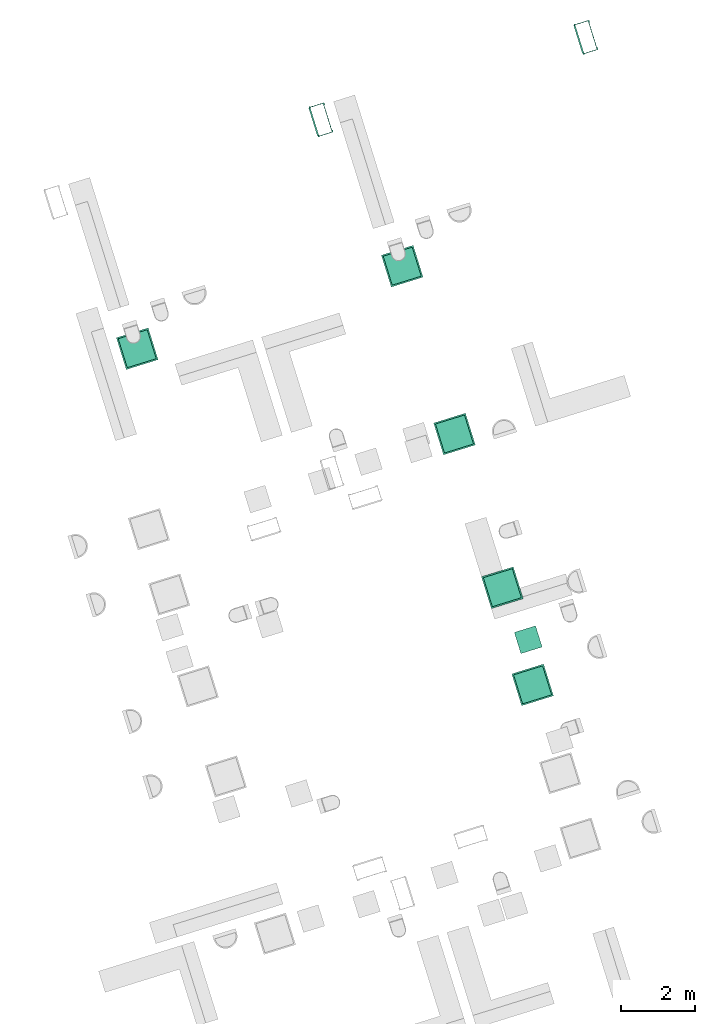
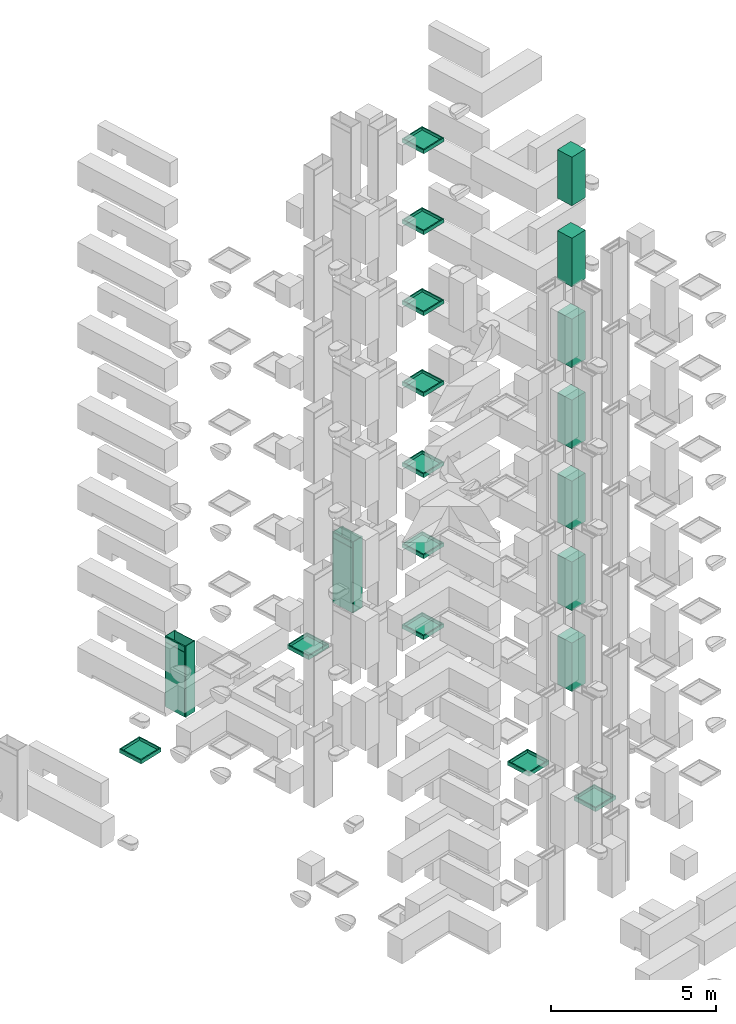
# Not in any storey, part 5 of 20: 11 sanitary terminals, 7 boilers, 2 distribution chamber elements.
"""IFC4 model written with IfcOpenShell, lengths in metres."""

from ifc_helpers import new_model, entity, si_unit, converted_unit, direction, frame, origin, place, context, subcontext, project, indexed_curve, outline, extrude, polygons, source, transform, mapped, material, type_object, type_shapes, element, save


model = new_model("IFC4")

# Units and contexts
model_context = context("Model", 3, precision=1e-05, world=origin(), true_north=direction((6.12323399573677e-17, 1.0)))
body_context = subcontext(model_context, "Body", "Model", "MODEL_VIEW")
ifc_project = project(units=[si_unit("LENGTHUNIT", "METRE"), si_unit("AREAUNIT", "SQUARE_METRE"), si_unit("VOLUMEUNIT", "CUBIC_METRE"), converted_unit("PLANEANGLEUNIT", "DEGREE", entity("IfcPlaneAngleMeasure", 0.0174532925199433), si_unit("PLANEANGLEUNIT", "RADIAN"), dimensions=[0, 0, 0, 0, 0, 0, 0])], contexts=[model_context])

# Distribution chamber elements
ifc_material = material(Name="<Unnamed>")
distribution_chamber_element_type = type_object("IfcDistributionChamberElementType", Name="NLRS_61_GM_UN_Jonka meterkast_gen:Jonka_kast", PredefinedType="METERCHAMBER", material=ifc_material)
shared_shape_1 = source(origin(), body_context, "Body", "SweptSolid", [
    extrude(outline(indexed_curve([(-0.00925000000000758, -0.0230000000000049), (0.0177500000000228, -0.0230000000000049), (0.0177500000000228, 0.0230000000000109), (-0.00925000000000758, 0.0230000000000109), (-0.00925000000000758, 0.00899999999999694), (0.000749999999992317, 0.00899999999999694), (0.000749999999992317, -0.00900000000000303), (-0.00925000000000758, -0.00900000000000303), (-0.00925000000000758, -0.0230000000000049)], self_intersect=False)), frame((-0.408999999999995, -0.409249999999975, 0.0), z_axis=(0.0, 0.0, 1.0), x_axis=(0.0, -1.0, 0.0)), (0.0, 0.0, 1.0), 2.63),
    extrude(outline(indexed_curve([(-0.0092500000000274, -0.0230000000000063), (0.0177500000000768, -0.0230000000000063), (0.0177500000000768, 0.0229999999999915), (-0.00925000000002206, 0.0229999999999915), (-0.00925000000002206, 0.00900000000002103), (0.000749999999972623, 0.00900000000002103), (0.000749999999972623, -0.00900000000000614), (-0.0092500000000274, -0.00900000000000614), (-0.0092500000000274, -0.0230000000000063)], self_intersect=False)), frame((0.409000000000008, -0.409249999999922, 0.0), z_axis=(0.0, 0.0, 1.0), x_axis=(0.0, -1.0, 0.0)), (0.0, 0.0, 1.0), 2.63),
    extrude(outline(indexed_curve([(-0.204999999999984, -0.00899999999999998), (0.204999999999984, -0.00899999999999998), (0.204999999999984, 0.00899999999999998), (-0.204999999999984, 0.00899999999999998), (-0.204999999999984, -0.00899999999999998)], self_intersect=False)), frame((-0.408999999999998, -0.204999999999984, 0.0), z_axis=(0.0, 0.0, 1.0), x_axis=(0.0, -1.0, 0.0)), (0.0, 0.0, 1.0), 2.63),
    extrude(outline(indexed_curve([(-0.204999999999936, -0.00900000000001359), (0.204999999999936, -0.00900000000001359), (0.204999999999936, 0.00900000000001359), (-0.204999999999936, 0.00900000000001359), (-0.204999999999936, -0.00900000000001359)], self_intersect=False)), frame((0.409000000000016, -0.204999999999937, 0.0), z_axis=(0.0, 0.0, 1.0), x_axis=(0.0, -1.0, 0.0)), (0.0, 0.0, 1.0), 2.63),
    extrude(outline(indexed_curve([(-0.399999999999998, -0.00799999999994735), (0.399999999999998, -0.00799999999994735), (0.399999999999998, 0.00799999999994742), (-0.399999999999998, 0.00799999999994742), (-0.399999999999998, -0.00799999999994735)], self_intersect=False)), frame((0.0, -0.434999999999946, 0.00999999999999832), z_axis=(0.0, 0.0, 1.0), x_axis=(-1.0, 0.0, 0.0)), (0.0, 0.0, 1.0), 2.39),
    extrude(outline(indexed_curve([(-0.400000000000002, -0.00899999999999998), (0.400000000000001, -0.00899999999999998), (0.400000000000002, 0.00899999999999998), (-0.400000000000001, 0.00899999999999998), (-0.400000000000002, -0.00899999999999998)], self_intersect=False)), frame((0.0, -0.0280000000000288, 0.0), z_axis=(0.0, 0.0, 1.0), x_axis=(-1.0, 0.0, 0.0)), (0.0, 0.0, 1.0), 2.63),
    extrude(outline(indexed_curve([(-0.023, -0.0095), (0.023, -0.0095), (0.023, 0.0095), (-0.023, 0.0095), (-0.023, -0.0095)], self_intersect=False)), frame((-0.376999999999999, -0.0095, 0.0), z_axis=(0.0, 0.0, 1.0), x_axis=(-1.0, 0.0, 0.0)), (0.0, 0.0, 1.0), 2.63),
    extrude(outline(indexed_curve([(-0.022999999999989, -0.0095), (0.022999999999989, -0.0095), (0.022999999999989, 0.0095), (-0.022999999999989, 0.0095), (-0.022999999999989, -0.0095)], self_intersect=False)), frame((0.377000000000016, -0.00950000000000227, 0.0), z_axis=(0.0, 0.0, 1.0), x_axis=(-1.0, 0.0, 0.0)), (0.0, 0.0, 1.0), 2.63),
    extrude(outline(indexed_curve([(-0.399999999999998, -0.00799999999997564), (0.399999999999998, -0.00799999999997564), (0.399999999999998, 0.00799999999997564), (-0.399999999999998, 0.00799999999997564), (-0.399999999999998, -0.00799999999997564)], self_intersect=False)), frame((0.0, -0.434999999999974, 2.41800000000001), z_axis=(0.0, 0.0, 1.0), x_axis=(-1.0, 0.0, 0.0)), (0.0, 0.0, 1.0), 0.197000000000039),
    extrude(outline(indexed_curve([(-0.0230000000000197, -0.0177500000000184), (0.0230000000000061, -0.0177500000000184), (0.0230000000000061, 0.00925000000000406), (0.00900000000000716, 0.00925000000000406), (0.00900000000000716, -0.00074999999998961), (-0.00899999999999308, -0.00074999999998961), (-0.00899999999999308, 0.00925000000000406), (-0.0230000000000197, 0.00925000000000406), (-0.0230000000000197, -0.0177500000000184)], self_intersect=False)), frame((-0.386, -0.409249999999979, 2.59200000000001), z_axis=(1.0, 0.0, 0.0), x_axis=(0.0, 0.0, -1.0)), (0.0, 0.0, 1.0), 0.772),
    extrude(outline(indexed_curve([(-0.0229999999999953, -0.0177500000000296), (0.0229999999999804, -0.0177500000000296), (0.0229999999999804, 0.00925000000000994), (0.00900000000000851, 0.00925000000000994), (0.00900000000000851, -0.000749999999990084), (-0.00899999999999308, -0.000749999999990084), (-0.00899999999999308, 0.00925000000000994), (-0.0229999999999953, 0.00925000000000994), (-0.0229999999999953, -0.0177500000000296)], self_intersect=False)), frame((-0.386, -0.40924999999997, 2.40900000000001), z_axis=(1.0, 0.0, 0.0), x_axis=(0.0, 0.0, -1.0)), (0.0, 0.0, 1.0), 0.772),
    extrude(outline(indexed_curve([(-0.0230000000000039, -0.0177500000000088), (0.0230000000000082, -0.0177500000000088), (0.0230000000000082, 0.00925000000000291), (0.00899999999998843, 0.00925000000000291), (0.00899999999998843, -0.000749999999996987), (-0.00899999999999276, -0.000749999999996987), (-0.00899999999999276, 0.00925000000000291), (-0.0230000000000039, 0.00925000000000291), (-0.0230000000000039, -0.0177500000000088)], self_intersect=False)), frame((-0.386, -0.409249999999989, 0.0229999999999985), z_axis=(1.0, 0.0, 0.0), x_axis=(0.0, 0.0, -1.0)), (0.0, 0.0, 1.0), 0.772),
])
type_shapes(distribution_chamber_element_type, [shared_shape_1])
placement_1 = place(None, frame((13.1347999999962, 11.9886000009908, 0.0), z_axis=(0.0, 0.0, 1.0), x_axis=(0.954770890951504, 0.297342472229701, 0.0)))
placement_2 = place(placement_1, origin())
placement_3 = place(placement_2, origin())
placement_4 = place(placement_3, origin())
distribution_chamber_element_1_placement = place(placement_4, frame((19.8750000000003, 31.957, 0.0), z_axis=(0.0, 0.0, 1.0), x_axis=(0.0, -1.0, 0.0)))
element("IfcDistributionChamberElement", 1, at=distribution_chamber_element_1_placement, type_object=distribution_chamber_element_type, material=ifc_material, Name="NLRS_61_GM_UN_Jonka meterkast_gen:Jonka_kast", ObjectType="NLRS_61_GM_UN_Jonka meterkast_gen:Jonka_kast", PredefinedType="METERCHAMBER", context=body_context, shape_type="MappedRepresentation", body=[
    mapped(shared_shape_1, transform((0.0, 0.0, 0.0), scale=1.0)),
])
placement_5 = place(placement_3, origin())
distribution_chamber_element_2_placement = place(placement_5, frame((27.3750000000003, 31.957, 0.0), z_axis=(0.0, 0.0, 1.0), x_axis=(0.0, -1.0, 0.0)))
element("IfcDistributionChamberElement", 2, at=distribution_chamber_element_2_placement, type_object=distribution_chamber_element_type, material=ifc_material, Name="NLRS_61_GM_UN_Jonka meterkast_gen:Jonka_kast", ObjectType="NLRS_61_GM_UN_Jonka meterkast_gen:Jonka_kast", PredefinedType="METERCHAMBER", context=body_context, shape_type="MappedRepresentation", body=[
    mapped(shared_shape_1, transform((0.0, 0.0, 0.0), scale=1.0)),
])

# Boilers
boiler_type = type_object("IfcBoilerType", Name="NLRS_51_ME_WB_warmtepomp_gen:generiek", PredefinedType="NOTDEFINED", material=ifc_material)
shared_shape_2 = source(origin(), body_context, "Body", "SweptSolid", [
    extrude(outline(indexed_curve([(-0.299999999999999, -0.300000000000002), (0.299999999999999, -0.300000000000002), (0.299999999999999, 0.300000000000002), (-0.299999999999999, 0.300000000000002), (-0.299999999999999, -0.300000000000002)], self_intersect=False)), frame((0.124999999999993, 0.350000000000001, 0.6), z_axis=(0.0, 0.0, 1.0), x_axis=(-1.0, 0.0, 0.0)), (0.0, 0.0, 1.0), 1.8),
])
type_shapes(boiler_type, [shared_shape_2])
placement_6 = place(placement_2, frame((0.0, 0.0, 6.9)))
placement_7 = place(placement_6, origin())
boiler_1_placement = place(placement_7, frame((20.9500000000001, 17.225, 0.0), z_axis=(0.0, 0.0, 1.0), x_axis=(-1.0, 0.0, 0.0)))
element("IfcBoiler", 3, at=boiler_1_placement, type_object=boiler_type, material=ifc_material, Name="NLRS_51_ME_WB_warmtepomp_gen:generiek", ObjectType="NLRS_51_ME_WB_warmtepomp_gen:generiek", PredefinedType="NOTDEFINED", context=body_context, shape_type="MappedRepresentation", body=[
    mapped(shared_shape_2, transform((0.0, 0.0, 0.0), scale=1.0)),
])
placement_8 = place(placement_2, frame((0.0, 0.0, 9.9)))
placement_9 = place(placement_8, origin())
boiler_2_placement = place(placement_9, frame((20.9500000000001, 17.225, 0.0), z_axis=(0.0, 0.0, 1.0), x_axis=(-1.0, 0.0, 0.0)))
element("IfcBoiler", 4, at=boiler_2_placement, type_object=boiler_type, material=ifc_material, Name="NLRS_51_ME_WB_warmtepomp_gen:generiek", ObjectType="NLRS_51_ME_WB_warmtepomp_gen:generiek", PredefinedType="NOTDEFINED", context=body_context, shape_type="MappedRepresentation", body=[
    mapped(shared_shape_2, transform((0.0, 0.0, 0.0), scale=1.0)),
])
placement_10 = place(placement_2, frame((0.0, 0.0, 12.9)))
placement_11 = place(placement_10, origin())
boiler_3_placement = place(placement_11, frame((20.9500000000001, 17.225, 0.0), z_axis=(0.0, 0.0, 1.0), x_axis=(-1.0, 0.0, 0.0)))
element("IfcBoiler", 5, at=boiler_3_placement, type_object=boiler_type, material=ifc_material, Name="NLRS_51_ME_WB_warmtepomp_gen:generiek", ObjectType="NLRS_51_ME_WB_warmtepomp_gen:generiek", PredefinedType="NOTDEFINED", context=body_context, shape_type="MappedRepresentation", body=[
    mapped(shared_shape_2, transform((0.0, 0.0, 0.0), scale=1.0)),
])
placement_12 = place(placement_2, frame((0.0, 0.0, 15.9)))
placement_13 = place(placement_12, origin())
boiler_4_placement = place(placement_13, frame((20.9500000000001, 17.225, 0.0), z_axis=(0.0, 0.0, 1.0), x_axis=(-1.0, 0.0, 0.0)))
element("IfcBoiler", 6, at=boiler_4_placement, type_object=boiler_type, material=ifc_material, Name="NLRS_51_ME_WB_warmtepomp_gen:generiek", ObjectType="NLRS_51_ME_WB_warmtepomp_gen:generiek", PredefinedType="NOTDEFINED", context=body_context, shape_type="MappedRepresentation", body=[
    mapped(shared_shape_2, transform((0.0, 0.0, 0.0), scale=1.0)),
])
placement_14 = place(placement_2, frame((0.0, 0.0, 18.9)))
placement_15 = place(placement_14, origin())
boiler_5_placement = place(placement_15, frame((20.9500000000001, 17.225, 0.0), z_axis=(0.0, 0.0, 1.0), x_axis=(-1.0, 0.0, 0.0)))
element("IfcBoiler", 7, at=boiler_5_placement, type_object=boiler_type, material=ifc_material, Name="NLRS_51_ME_WB_warmtepomp_gen:generiek", ObjectType="NLRS_51_ME_WB_warmtepomp_gen:generiek", PredefinedType="NOTDEFINED", context=body_context, shape_type="MappedRepresentation", body=[
    mapped(shared_shape_2, transform((0.0, 0.0, 0.0), scale=1.0)),
])
placement_16 = place(placement_2, frame((0.0, 0.0, 21.9)))
placement_17 = place(placement_16, origin())
boiler_6_placement = place(placement_17, frame((20.9500000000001, 17.225, 0.0), z_axis=(0.0, 0.0, 1.0), x_axis=(-1.0, 0.0, 0.0)))
element("IfcBoiler", 8, at=boiler_6_placement, type_object=boiler_type, material=ifc_material, Name="NLRS_51_ME_WB_warmtepomp_gen:generiek", ObjectType="NLRS_51_ME_WB_warmtepomp_gen:generiek", PredefinedType="NOTDEFINED", context=body_context, shape_type="MappedRepresentation", body=[
    mapped(shared_shape_2, transform((0.0, 0.0, 0.0), scale=1.0)),
])
placement_18 = place(placement_2, frame((0.0, 0.0, 24.9)))
placement_19 = place(placement_18, origin())
boiler_7_placement = place(placement_19, frame((20.9500000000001, 17.225, 0.0), z_axis=(0.0, 0.0, 1.0), x_axis=(-1.0, 0.0, 0.0)))
element("IfcBoiler", 9, at=boiler_7_placement, type_object=boiler_type, material=ifc_material, Name="NLRS_51_ME_WB_warmtepomp_gen:generiek", ObjectType="NLRS_51_ME_WB_warmtepomp_gen:generiek", PredefinedType="NOTDEFINED", context=body_context, shape_type="MappedRepresentation", body=[
    mapped(shared_shape_2, transform((0.0, 0.0, 0.0), scale=1.0)),
])

# Sanitary terminals
sanitary_terminal_type = type_object("IfcSanitaryTerminalType", Name="NLRS_74_PF_UN_douche_gen:douchebak 900x900mm", PredefinedType="NOTDEFINED", material=ifc_material)
shared_shape_3 = source(origin(), body_context, "Body", "Tessellation", [
    polygons([(1.65924045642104, 0.403499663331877, -9.76), (0.759240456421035, 0.403499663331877, -9.76), (0.759240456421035, -0.496500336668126, -9.76), (1.65924045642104, -0.496500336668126, -9.76), (0.799240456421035, 0.36349966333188, -9.76), (1.61924045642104, 0.36349966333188, -9.76), (1.61924045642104, -0.456500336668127, -9.76), (0.799240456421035, -0.456500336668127, -9.76), (1.65924045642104, 0.403499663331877, -9.9), (1.65924045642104, -0.496500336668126, -9.9), (0.759240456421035, -0.496500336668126, -9.9), (0.759240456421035, 0.403499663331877, -9.9), (1.61924045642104, 0.36349966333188, -9.86), (0.799240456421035, 0.36349966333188, -9.86), (0.799240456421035, -0.456500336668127, -9.86), (1.61924045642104, -0.456500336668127, -9.86)], [[[1, 2, 3, 4], [5, 6, 7, 8]], [[9, 10, 11, 12]], [[2, 1, 9, 12]], [[3, 2, 12, 11]], [[4, 3, 11, 10]], [[1, 4, 10, 9]], [[13, 14, 15, 16]], [[14, 13, 6, 5]], [[15, 14, 5, 8]], [[16, 15, 8, 7]], [[13, 16, 7, 6]]], closed=True),
])
type_shapes(sanitary_terminal_type, [shared_shape_3])
placement_20 = place(placement_2, frame((0.0, 0.0, 3.9)))
placement_21 = place(placement_20, origin())
sanitary_terminal_1_placement = place(placement_21, frame((13.0284996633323, 26.3157595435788, 9.9), z_axis=(0.0, 0.0, 1.0), x_axis=(0.0, 1.0, 0.0)))
element("IfcSanitaryTerminal", 10, at=sanitary_terminal_1_placement, type_object=sanitary_terminal_type, material=ifc_material, Name="NLRS_74_PF_UN_douche_gen:douchebak 900x900mm", ObjectType="NLRS_74_PF_UN_douche_gen:douchebak 900x900mm", PredefinedType="NOTDEFINED", context=body_context, shape_type="MappedRepresentation", body=[
    mapped(shared_shape_3, transform((0.0, 0.0, 0.0), scale=1.0)),
])
placement_22 = place(placement_20, origin())
sanitary_terminal_2_placement = place(placement_22, frame((20.5284996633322, 26.315759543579, 9.9), z_axis=(0.0, 0.0, 1.0), x_axis=(0.0, 1.0, 0.0)))
element("IfcSanitaryTerminal", 11, at=sanitary_terminal_2_placement, type_object=sanitary_terminal_type, material=ifc_material, Name="NLRS_74_PF_UN_douche_gen:douchebak 900x900mm", ObjectType="NLRS_74_PF_UN_douche_gen:douchebak 900x900mm", PredefinedType="NOTDEFINED", context=body_context, shape_type="MappedRepresentation", body=[
    mapped(shared_shape_3, transform((0.0, 0.0, 0.0), scale=1.0)),
])
placement_23 = place(placement_6, origin())
sanitary_terminal_3_placement = place(placement_23, frame((20.6215003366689, 23.9842404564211, 9.9), z_axis=(0.0, 0.0, 1.0), x_axis=(0.0, -1.0, 0.0)))
element("IfcSanitaryTerminal", 12, at=sanitary_terminal_3_placement, type_object=sanitary_terminal_type, material=ifc_material, Name="NLRS_74_PF_UN_douche_gen:douchebak 900x900mm", ObjectType="NLRS_74_PF_UN_douche_gen:douchebak 900x900mm", PredefinedType="NOTDEFINED", context=body_context, shape_type="MappedRepresentation", body=[
    mapped(shared_shape_3, transform((0.0, 0.0, 0.0), scale=1.0)),
])
placement_24 = place(placement_8, origin())
sanitary_terminal_4_placement = place(placement_24, frame((20.6215003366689, 23.9842404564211, 9.9), z_axis=(0.0, 0.0, 1.0), x_axis=(0.0, -1.0, 0.0)))
element("IfcSanitaryTerminal", 13, at=sanitary_terminal_4_placement, type_object=sanitary_terminal_type, material=ifc_material, Name="NLRS_74_PF_UN_douche_gen:douchebak 900x900mm", ObjectType="NLRS_74_PF_UN_douche_gen:douchebak 900x900mm", PredefinedType="NOTDEFINED", context=body_context, shape_type="MappedRepresentation", body=[
    mapped(shared_shape_3, transform((0.0, 0.0, 0.0), scale=1.0)),
])
placement_25 = place(placement_10, origin())
sanitary_terminal_5_placement = place(placement_25, frame((20.6215003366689, 23.9842404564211, 9.90000000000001), z_axis=(0.0, 0.0, 1.0), x_axis=(0.0, -1.0, 0.0)))
element("IfcSanitaryTerminal", 14, at=sanitary_terminal_5_placement, type_object=sanitary_terminal_type, material=ifc_material, Name="NLRS_74_PF_UN_douche_gen:douchebak 900x900mm", ObjectType="NLRS_74_PF_UN_douche_gen:douchebak 900x900mm", PredefinedType="NOTDEFINED", context=body_context, shape_type="MappedRepresentation", body=[
    mapped(shared_shape_3, transform((0.0, 0.0, 0.0), scale=1.0)),
])
placement_26 = place(placement_12, origin())
sanitary_terminal_6_placement = place(placement_26, frame((20.6215003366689, 23.9842404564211, 9.9), z_axis=(0.0, 0.0, 1.0), x_axis=(0.0, -1.0, 0.0)))
element("IfcSanitaryTerminal", 15, at=sanitary_terminal_6_placement, type_object=sanitary_terminal_type, material=ifc_material, Name="NLRS_74_PF_UN_douche_gen:douchebak 900x900mm", ObjectType="NLRS_74_PF_UN_douche_gen:douchebak 900x900mm", PredefinedType="NOTDEFINED", context=body_context, shape_type="MappedRepresentation", body=[
    mapped(shared_shape_3, transform((0.0, 0.0, 0.0), scale=1.0)),
])
placement_27 = place(placement_14, origin())
sanitary_terminal_7_placement = place(placement_27, frame((20.6215003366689, 23.9842404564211, 9.9), z_axis=(0.0, 0.0, 1.0), x_axis=(0.0, -1.0, 0.0)))
element("IfcSanitaryTerminal", 16, at=sanitary_terminal_7_placement, type_object=sanitary_terminal_type, material=ifc_material, Name="NLRS_74_PF_UN_douche_gen:douchebak 900x900mm", ObjectType="NLRS_74_PF_UN_douche_gen:douchebak 900x900mm", PredefinedType="NOTDEFINED", context=body_context, shape_type="MappedRepresentation", body=[
    mapped(shared_shape_3, transform((0.0, 0.0, 0.0), scale=1.0)),
])
placement_28 = place(placement_16, origin())
sanitary_terminal_8_placement = place(placement_28, frame((20.6215003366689, 23.9842404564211, 9.9), z_axis=(0.0, 0.0, 1.0), x_axis=(0.0, -1.0, 0.0)))
element("IfcSanitaryTerminal", 17, at=sanitary_terminal_8_placement, type_object=sanitary_terminal_type, material=ifc_material, Name="NLRS_74_PF_UN_douche_gen:douchebak 900x900mm", ObjectType="NLRS_74_PF_UN_douche_gen:douchebak 900x900mm", PredefinedType="NOTDEFINED", context=body_context, shape_type="MappedRepresentation", body=[
    mapped(shared_shape_3, transform((0.0, 0.0, 0.0), scale=1.0)),
])
placement_29 = place(placement_18, origin())
sanitary_terminal_9_placement = place(placement_29, frame((20.6215003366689, 23.9842404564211, 9.9), z_axis=(0.0, 0.0, 1.0), x_axis=(0.0, -1.0, 0.0)))
element("IfcSanitaryTerminal", 18, at=sanitary_terminal_9_placement, type_object=sanitary_terminal_type, material=ifc_material, Name="NLRS_74_PF_UN_douche_gen:douchebak 900x900mm", ObjectType="NLRS_74_PF_UN_douche_gen:douchebak 900x900mm", PredefinedType="NOTDEFINED", context=body_context, shape_type="MappedRepresentation", body=[
    mapped(shared_shape_3, transform((0.0, 0.0, 0.0), scale=1.0)),
])
placement_30 = place(placement_20, origin())
sanitary_terminal_10_placement = place(placement_30, frame((21.7842404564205, 18.3784996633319, 9.9), z_axis=(0.0, 0.0, 1.0), x_axis=(-1.0, 0.0, 0.0)))
element("IfcSanitaryTerminal", 19, at=sanitary_terminal_10_placement, type_object=sanitary_terminal_type, material=ifc_material, Name="NLRS_74_PF_UN_douche_gen:douchebak 900x900mm", ObjectType="NLRS_74_PF_UN_douche_gen:douchebak 900x900mm", PredefinedType="NOTDEFINED", context=body_context, shape_type="MappedRepresentation", body=[
    mapped(shared_shape_3, transform((0.0, 0.0, 0.0), scale=1.0)),
])
shared_shape_4 = source(origin(), body_context, "Body", "Tessellation", [
    polygons([(1.65924045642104, -0.403499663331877, -3.76), (1.65924045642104, 0.496500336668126, -3.76), (0.759240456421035, 0.496500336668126, -3.76), (0.759240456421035, -0.403499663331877, -3.76), (0.799240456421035, -0.36349966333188, -3.76), (0.799240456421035, 0.456500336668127, -3.76), (1.61924045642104, 0.456500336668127, -3.76), (1.61924045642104, -0.36349966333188, -3.76), (1.65924045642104, -0.403499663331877, -3.9), (0.759240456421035, -0.403499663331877, -3.9), (0.759240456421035, 0.496500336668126, -3.9), (1.65924045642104, 0.496500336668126, -3.9), (1.61924045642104, -0.36349966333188, -3.86), (1.61924045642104, 0.456500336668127, -3.86), (0.799240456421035, 0.456500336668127, -3.86), (0.799240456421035, -0.36349966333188, -3.86)], [[[1, 2, 3, 4], [5, 6, 7, 8]], [[9, 10, 11, 12]], [[4, 10, 9, 1]], [[3, 11, 10, 4]], [[2, 12, 11, 3]], [[1, 9, 12, 2]], [[13, 14, 15, 16]], [[16, 5, 8, 13]], [[15, 6, 5, 16]], [[14, 7, 6, 15]], [[13, 8, 7, 14]]], closed=True),
])
placement_31 = place(placement_20, origin())
sanitary_terminal_11_placement = place(placement_31, frame((21.7842404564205, 15.7215003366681, 3.9), z_axis=(0.0, 0.0, 1.0), x_axis=(-1.0, 0.0, 0.0)))
element("IfcSanitaryTerminal", 20, at=sanitary_terminal_11_placement, type_object=sanitary_terminal_type, material=ifc_material, Name="NLRS_74_PF_UN_douche_gen:douchebak 900x900mm", ObjectType="NLRS_74_PF_UN_douche_gen:douchebak 900x900mm", PredefinedType="NOTDEFINED", context=body_context, shape_type="MappedRepresentation", body=[
    mapped(shared_shape_4, transform((0.0, 0.0, 0.0), scale=1.0)),
])

save(model, "model.ifc")
